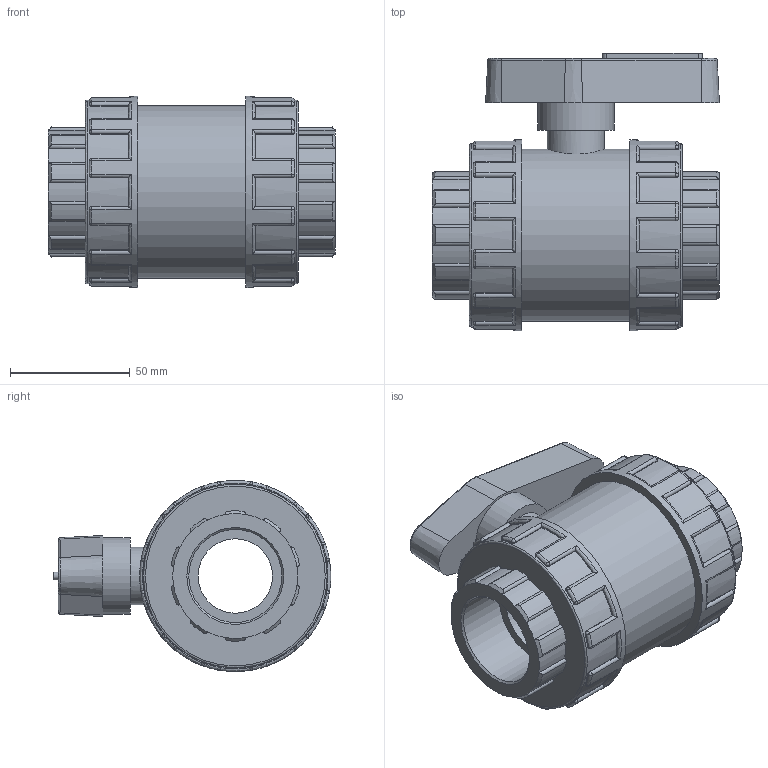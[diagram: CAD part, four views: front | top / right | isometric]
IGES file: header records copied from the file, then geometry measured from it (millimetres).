
Global section: file name: 11241013.ipt; native system: Autodesk Inventor 2015; preprocessor: unknown; author: KIM; date: 20171207.170310; units: millimetre
Bounding box: 120.14 x 116.22 x 80 mm (x, y, z)
Volume: 409338.1 mm3; surface area: 59706.7 mm2
Topology: 1 solids, 1 shells, 434 faces, 1085 edges, 662 vertices
Faces by surface type: cylinder 189, plane 114, revolution 59, sphere 48, cone 24
Full cylindrical faces by diameter (mm): 24 x1, 32 x1, 72 x1, 76.8 x2, 80 x2
